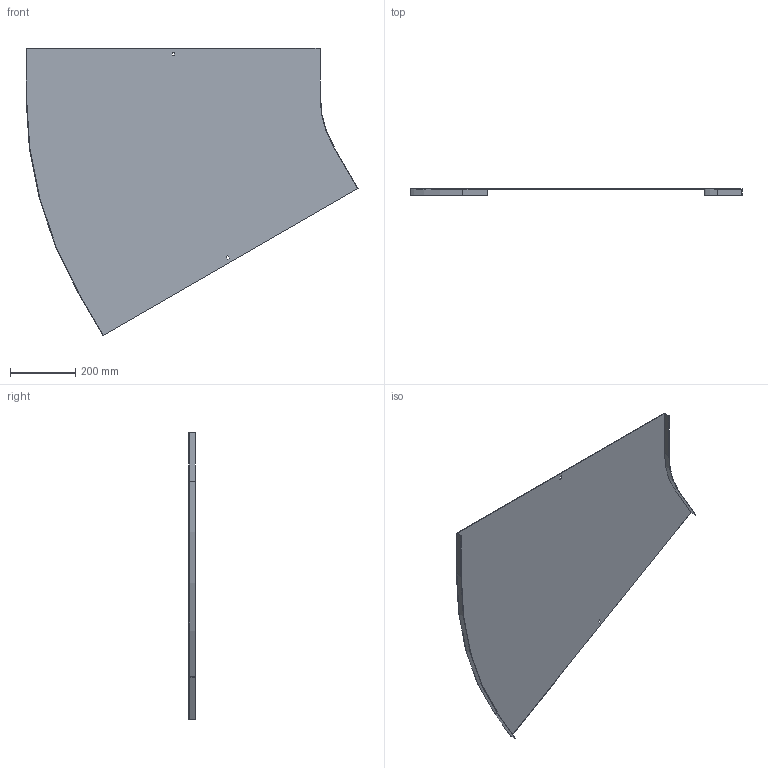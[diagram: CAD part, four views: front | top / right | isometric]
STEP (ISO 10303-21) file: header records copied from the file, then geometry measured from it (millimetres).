
FILE_DESCRIPTION (( 'STEP AP214' ), '1' );
FILE_NAME ('A2_12N3R900.step', '2025-02-21T10:49:13', ( '' ), ( '' ), 'SwSTEP 2.0', 'SolidWorks 2023', '' );
FILE_SCHEMA (( 'AUTOMOTIVE_DESIGN' ));
Length unit declared in the file: millimetre
Products named in the file (1): A2_12N3R900
Bounding box: 1017.99 x 20 x 880.65 mm (x, y, z)
Volume: 976530.2 mm3; surface area: 1307031.4 mm2
Topology: 1 solids, 1 shells, 26 faces, 72 edges, 48 vertices
Faces by surface type: plane 22, cylinder 4
Entity records: 855 total; most frequent: CARTESIAN_POINT 147, ORIENTED_EDGE 144, DIRECTION 134, EDGE_CURVE 72, VECTOR 64, LINE 64, VERTEX_POINT 48, AXIS2_PLACEMENT_3D 35
